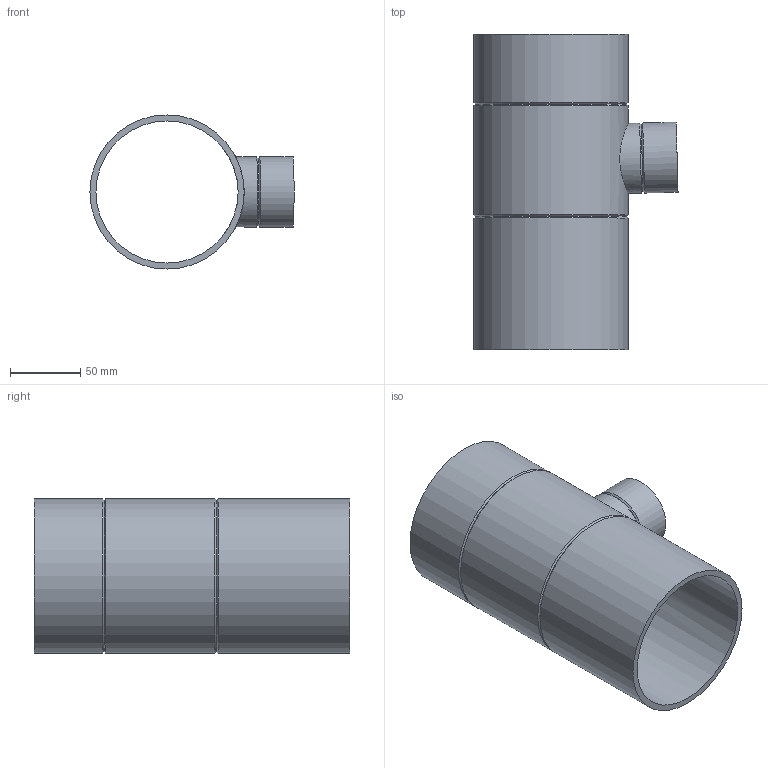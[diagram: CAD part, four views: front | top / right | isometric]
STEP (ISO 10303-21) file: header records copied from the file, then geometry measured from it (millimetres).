
FILE_DESCRIPTION(/* description */ (''),/* implementation_level */ '2;1');
FILE_NAME(/* name */ 'Z:\Geberit\Export\NewStep\367162.stp',/* time_stamp */ '2014-04-02T07:55:54+02:00',/* author */ ('nelson'),/* organization */ (''),/* preprocessor_version */ 'ST-DEVELOPER v15.2',/* originating_system */ 'Autodesk Inventor 2014',/* authorisation */ '');
FILE_SCHEMA (('AUTOMOTIVE_DESIGN { 1 0 10303 214 3 1 1 }'));
Length unit declared in the file: millimetre
Products named in the file (1): 367162
Bounding box: 145.62 x 225 x 110 mm (x, y, z)
Volume: 330084.4 mm3; surface area: 161631.8 mm2
Topology: 1 solids, 1 shells, 16 faces, 37 edges, 23 vertices
Faces by surface type: cylinder 7, cone 6, plane 3
Full cylindrical faces by diameter (mm): 44 x1, 50 x2, 101.4 x1, 110 x3
Entity records: 503 total; most frequent: CARTESIAN_POINT 181, DIRECTION 64, EDGE_LOOP 34, ORIENTED_EDGE 34, AXIS2_PLACEMENT_3D 32, FACE_BOUND 22, VERTEX_POINT 17, EDGE_CURVE 17
